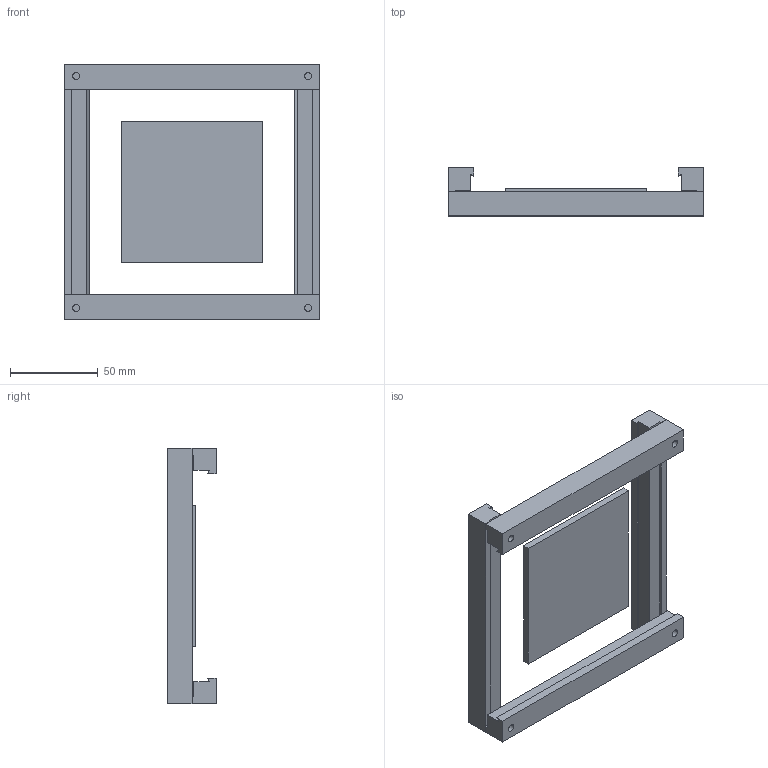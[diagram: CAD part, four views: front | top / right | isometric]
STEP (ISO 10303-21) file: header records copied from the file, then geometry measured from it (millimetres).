
FILE_DESCRIPTION (( 'STEP AP203' ), '1' );
FILE_NAME ('X-Y Verbindungsatz dL120.STEP', '2004-11-26T16:02:43', ( '' ), ( '' ), 'SwSTEP 2.0', 'SolidWorks 2004073', '' );
FILE_SCHEMA (( 'CONFIG_CONTROL_DESIGN' ));
Length unit declared in the file: millimetre
Products named in the file (5): X-Y Verbindungsatz dL120; Bestimmplatte-+-D007861_ _PDB_050708; Klemmleiste ge. 120-+-D005592_ _Standard; Klemmleiste Se. 120-+-D005589_ _Standard; SC-7984_M 5 x 20
Assembly tree (9 placements, depth 2):
  X-Y Verbindungsatz dL120
    Bestimmplatte-+-D007861_ _PDB_050708
    Klemmleiste ge. 120-+-D005592_ _Standard  x2
    SC-7984_M 5 x 20  x4
    Klemmleiste Se. 120-+-D005589_ _Standard  x2
Bounding box: 145 x 27.4 x 145 mm (x, y, z)
Volume: 124640.2 mm3; surface area: 52782 mm2
Topology: 9 solids, 9 shells, 182 faces, 420 edges, 264 vertices
Faces by surface type: plane 118, cylinder 40, cone 16, torus 8
Entity records: 2653 total; most frequent: DIRECTION 366, CARTESIAN_POINT 346, ORIENTED_EDGE 324, EDGE_CURVE 162, AXIS2_PLACEMENT_3D 124, LINE 118, VECTOR 118, VERTEX_POINT 104
